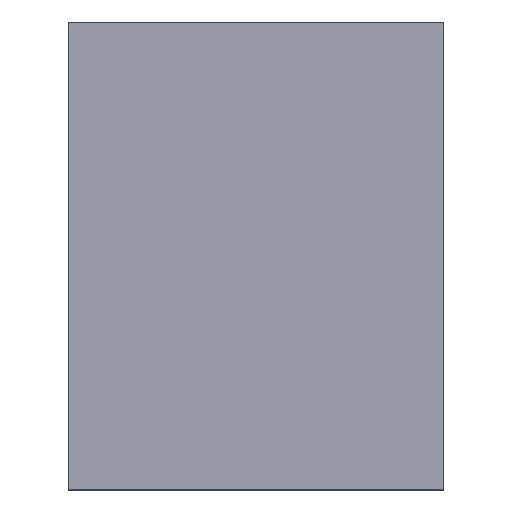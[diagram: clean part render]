
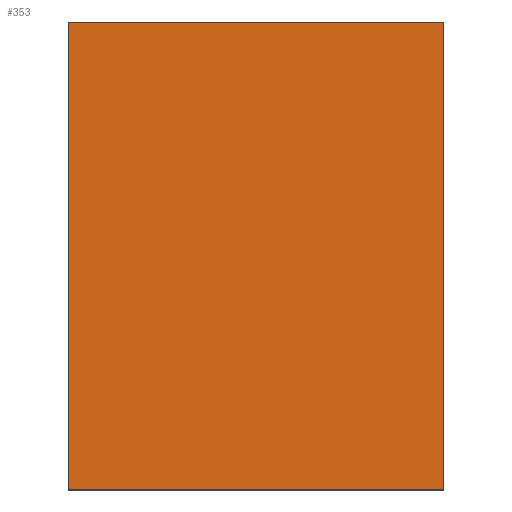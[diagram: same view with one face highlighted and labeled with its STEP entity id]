
A CAD part, top view. The second image highlights one B-rep face of the part: STEP entity #353.
In plain terms, the highlighted planar face has unit normal (0, 0, 1).
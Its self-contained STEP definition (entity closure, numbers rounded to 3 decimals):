
#39 = VERTEX_POINT('',#40);
#40 = CARTESIAN_POINT('',(-4.9,6.1,5.1));
#47 = PLANE('',#48);
#48 = AXIS2_PLACEMENT_3D('',#49,#50,#51);
#49 = CARTESIAN_POINT('',(-4.9,6.1,0.));
#50 = DIRECTION('',(0.,1.,0.));
#51 = DIRECTION('',(1.,0.,0.));
#59 = PLANE('',#60);
#60 = AXIS2_PLACEMENT_3D('',#61,#62,#63);
#61 = CARTESIAN_POINT('',(-4.9,-6.1,0.));
#62 = DIRECTION('',(-1.,0.,0.));
#63 = DIRECTION('',(0.,1.,0.));
#71 = EDGE_CURVE('',#39,#72,#74,.T.);
#72 = VERTEX_POINT('',#73);
#73 = CARTESIAN_POINT('',(4.9,6.1,5.1));
#74 = SURFACE_CURVE('',#75,(#79,#86),.PCURVE_S1.);
#75 = LINE('',#76,#77);
#76 = CARTESIAN_POINT('',(-4.9,6.1,5.1));
#77 = VECTOR('',#78,1.);
#78 = DIRECTION('',(1.,0.,0.));
#79 = PCURVE('',#47,#80);
#80 = DEFINITIONAL_REPRESENTATION('',(#81),#85);
#81 = LINE('',#82,#83);
#82 = CARTESIAN_POINT('',(0.,-5.1));
#83 = VECTOR('',#84,1.);
#84 = DIRECTION('',(1.,0.));
#85 = ( GEOMETRIC_REPRESENTATION_CONTEXT(2) 
PARAMETRIC_REPRESENTATION_CONTEXT() REPRESENTATION_CONTEXT('2D SPACE',''
  ) );
#86 = PCURVE('',#87,#92);
#87 = PLANE('',#88);
#88 = AXIS2_PLACEMENT_3D('',#89,#90,#91);
#89 = CARTESIAN_POINT('',(0.,0.,5.1));
#90 = DIRECTION('',(-0.,-0.,-1.));
#91 = DIRECTION('',(-1.,0.,0.));
#92 = DEFINITIONAL_REPRESENTATION('',(#93),#97);
#93 = LINE('',#94,#95);
#94 = CARTESIAN_POINT('',(4.9,6.1));
#95 = VECTOR('',#96,1.);
#96 = DIRECTION('',(-1.,0.));
#97 = ( GEOMETRIC_REPRESENTATION_CONTEXT(2) 
PARAMETRIC_REPRESENTATION_CONTEXT() REPRESENTATION_CONTEXT('2D SPACE',''
  ) );
#115 = PLANE('',#116);
#116 = AXIS2_PLACEMENT_3D('',#117,#118,#119);
#117 = CARTESIAN_POINT('',(4.9,6.1,0.));
#118 = DIRECTION('',(1.,0.,-0.));
#119 = DIRECTION('',(0.,-1.,0.));
#157 = EDGE_CURVE('',#72,#158,#160,.T.);
#158 = VERTEX_POINT('',#159);
#159 = CARTESIAN_POINT('',(4.9,-6.1,5.1));
#160 = SURFACE_CURVE('',#161,(#165,#172),.PCURVE_S1.);
#161 = LINE('',#162,#163);
#162 = CARTESIAN_POINT('',(4.9,6.1,5.1));
#163 = VECTOR('',#164,1.);
#164 = DIRECTION('',(0.,-1.,0.));
#165 = PCURVE('',#115,#166);
#166 = DEFINITIONAL_REPRESENTATION('',(#167),#171);
#167 = LINE('',#168,#169);
#168 = CARTESIAN_POINT('',(0.,-5.1));
#169 = VECTOR('',#170,1.);
#170 = DIRECTION('',(1.,0.));
#171 = ( GEOMETRIC_REPRESENTATION_CONTEXT(2) 
PARAMETRIC_REPRESENTATION_CONTEXT() REPRESENTATION_CONTEXT('2D SPACE',''
  ) );
#172 = PCURVE('',#87,#173);
#173 = DEFINITIONAL_REPRESENTATION('',(#174),#178);
#174 = LINE('',#175,#176);
#175 = CARTESIAN_POINT('',(-4.9,6.1));
#176 = VECTOR('',#177,1.);
#177 = DIRECTION('',(0.,-1.));
#178 = ( GEOMETRIC_REPRESENTATION_CONTEXT(2) 
PARAMETRIC_REPRESENTATION_CONTEXT() REPRESENTATION_CONTEXT('2D SPACE',''
  ) );
#196 = PLANE('',#197);
#197 = AXIS2_PLACEMENT_3D('',#198,#199,#200);
#198 = CARTESIAN_POINT('',(4.9,-6.1,0.));
#199 = DIRECTION('',(0.,-1.,0.));
#200 = DIRECTION('',(-1.,0.,0.));
#233 = EDGE_CURVE('',#158,#234,#236,.T.);
#234 = VERTEX_POINT('',#235);
#235 = CARTESIAN_POINT('',(-4.9,-6.1,5.1));
#236 = SURFACE_CURVE('',#237,(#241,#248),.PCURVE_S1.);
#237 = LINE('',#238,#239);
#238 = CARTESIAN_POINT('',(4.9,-6.1,5.1));
#239 = VECTOR('',#240,1.);
#240 = DIRECTION('',(-1.,0.,0.));
#241 = PCURVE('',#196,#242);
#242 = DEFINITIONAL_REPRESENTATION('',(#243),#247);
#243 = LINE('',#244,#245);
#244 = CARTESIAN_POINT('',(0.,-5.1));
#245 = VECTOR('',#246,1.);
#246 = DIRECTION('',(1.,0.));
#247 = ( GEOMETRIC_REPRESENTATION_CONTEXT(2) 
PARAMETRIC_REPRESENTATION_CONTEXT() REPRESENTATION_CONTEXT('2D SPACE',''
  ) );
#248 = PCURVE('',#87,#249);
#249 = DEFINITIONAL_REPRESENTATION('',(#250),#254);
#250 = LINE('',#251,#252);
#251 = CARTESIAN_POINT('',(-4.9,-6.1));
#252 = VECTOR('',#253,1.);
#253 = DIRECTION('',(1.,0.));
#254 = ( GEOMETRIC_REPRESENTATION_CONTEXT(2) 
PARAMETRIC_REPRESENTATION_CONTEXT() REPRESENTATION_CONTEXT('2D SPACE',''
  ) );
#304 = EDGE_CURVE('',#234,#39,#305,.T.);
#305 = SURFACE_CURVE('',#306,(#310,#317),.PCURVE_S1.);
#306 = LINE('',#307,#308);
#307 = CARTESIAN_POINT('',(-4.9,-6.1,5.1));
#308 = VECTOR('',#309,1.);
#309 = DIRECTION('',(0.,1.,0.));
#310 = PCURVE('',#59,#311);
#311 = DEFINITIONAL_REPRESENTATION('',(#312),#316);
#312 = LINE('',#313,#314);
#313 = CARTESIAN_POINT('',(0.,-5.1));
#314 = VECTOR('',#315,1.);
#315 = DIRECTION('',(1.,0.));
#316 = ( GEOMETRIC_REPRESENTATION_CONTEXT(2) 
PARAMETRIC_REPRESENTATION_CONTEXT() REPRESENTATION_CONTEXT('2D SPACE',''
  ) );
#317 = PCURVE('',#87,#318);
#318 = DEFINITIONAL_REPRESENTATION('',(#319),#323);
#319 = LINE('',#320,#321);
#320 = CARTESIAN_POINT('',(4.9,-6.1));
#321 = VECTOR('',#322,1.);
#322 = DIRECTION('',(0.,1.));
#323 = ( GEOMETRIC_REPRESENTATION_CONTEXT(2) 
PARAMETRIC_REPRESENTATION_CONTEXT() REPRESENTATION_CONTEXT('2D SPACE',''
  ) );
#353 = ADVANCED_FACE('',(#354),#87,.F.);
#354 = FACE_BOUND('',#355,.F.);
#355 = EDGE_LOOP('',(#356,#357,#358,#359));
#356 = ORIENTED_EDGE('',*,*,#71,.T.);
#357 = ORIENTED_EDGE('',*,*,#157,.T.);
#358 = ORIENTED_EDGE('',*,*,#233,.T.);
#359 = ORIENTED_EDGE('',*,*,#304,.T.);
